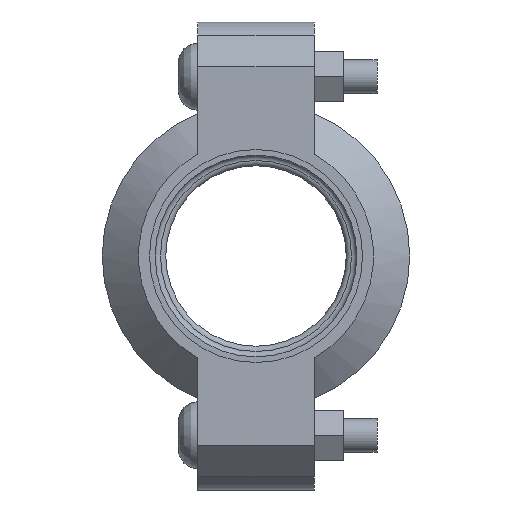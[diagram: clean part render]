
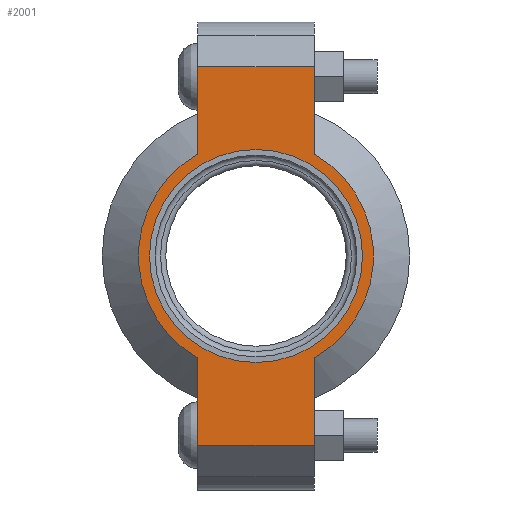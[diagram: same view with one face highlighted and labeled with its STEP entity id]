
A CAD part, left-side view. The second image highlights one B-rep face of the part: STEP entity #2001.
In plain terms, the highlighted planar face has unit normal (-1, 0, 0) as drawn and (0, 0, 1) by its records, which use the part's own axes.
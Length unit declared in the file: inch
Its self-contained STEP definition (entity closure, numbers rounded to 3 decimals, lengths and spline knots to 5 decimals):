
#134=LINE('',#3570,#233);
#142=LINE('',#3606,#241);
#149=LINE('',#3627,#248);
#158=LINE('',#3659,#257);
#159=LINE('',#3663,#258);
#160=LINE('',#3665,#259);
#233=VECTOR('',#2932,0.3937);
#241=VECTOR('',#2948,0.3937);
#248=VECTOR('',#2967,0.3937);
#257=VECTOR('',#2992,0.3937);
#258=VECTOR('',#2997,0.3937);
#259=VECTOR('',#2998,0.3937);
#319=FACE_BOUND('',#589,.T.);
#365=PLANE('',#2366);
#461=FACE_OUTER_BOUND('',#588,.T.);
#588=EDGE_LOOP('',(#1730,#1731,#1732,#1733,#1734,#1735,#1736,#1737));
#589=EDGE_LOOP('',(#1738));
#736=CIRCLE('',#2308,1.1875);
#762=CIRCLE('',#2367,1.31);
#763=CIRCLE('',#2368,1.31);
#887=VERTEX_POINT('',#3386);
#930=VERTEX_POINT('',#3567);
#931=VERTEX_POINT('',#3569);
#942=VERTEX_POINT('',#3601);
#943=VERTEX_POINT('',#3605);
#950=VERTEX_POINT('',#3624);
#951=VERTEX_POINT('',#3626);
#961=VERTEX_POINT('',#3662);
#962=VERTEX_POINT('',#3664);
#1124=EDGE_CURVE('',#887,#887,#736,.T.);
#1185=EDGE_CURVE('',#931,#930,#134,.T.);
#1199=EDGE_CURVE('',#943,#942,#142,.T.);
#1209=EDGE_CURVE('',#951,#950,#149,.T.);
#1224=EDGE_CURVE('',#943,#930,#158,.T.);
#1225=EDGE_CURVE('',#942,#951,#762,.T.);
#1226=EDGE_CURVE('',#961,#950,#159,.T.);
#1227=EDGE_CURVE('',#961,#962,#160,.T.);
#1228=EDGE_CURVE('',#962,#931,#763,.T.);
#1730=ORIENTED_EDGE('',*,*,#1224,.F.);
#1731=ORIENTED_EDGE('',*,*,#1199,.T.);
#1732=ORIENTED_EDGE('',*,*,#1225,.T.);
#1733=ORIENTED_EDGE('',*,*,#1209,.T.);
#1734=ORIENTED_EDGE('',*,*,#1226,.F.);
#1735=ORIENTED_EDGE('',*,*,#1227,.T.);
#1736=ORIENTED_EDGE('',*,*,#1228,.T.);
#1737=ORIENTED_EDGE('',*,*,#1185,.T.);
#1738=ORIENTED_EDGE('',*,*,#1124,.T.);
#2001=ADVANCED_FACE('',(#461,#319),#365,.T.);
#2308=AXIS2_PLACEMENT_3D('',#3388,#2808,#2809);
#2366=AXIS2_PLACEMENT_3D('',#3660,#2993,#2994);
#2367=AXIS2_PLACEMENT_3D('',#3661,#2995,#2996);
#2368=AXIS2_PLACEMENT_3D('',#3666,#2999,#3000);
#2808=DIRECTION('center_axis',(0.,0.,-1.));
#2809=DIRECTION('ref_axis',(1.,0.,0.));
#2932=DIRECTION('',(1.,0.,0.));
#2948=DIRECTION('',(-1.,0.,0.));
#2967=DIRECTION('',(-1.,0.,0.));
#2992=DIRECTION('',(0.,-1.,0.));
#2993=DIRECTION('center_axis',(0.,0.,1.));
#2994=DIRECTION('ref_axis',(-1.,0.,0.));
#2995=DIRECTION('center_axis',(0.,0.,1.));
#2996=DIRECTION('ref_axis',(1.,0.,0.));
#2997=DIRECTION('',(0.,1.,0.));
#2998=DIRECTION('',(1.,0.,0.));
#2999=DIRECTION('center_axis',(0.,0.,1.));
#3000=DIRECTION('ref_axis',(1.,0.,0.));
#3386=CARTESIAN_POINT('',(-1.1875,0.,0.94));
#3388=CARTESIAN_POINT('Origin',(0.,0.,0.94));
#3567=CARTESIAN_POINT('',(2.11,-0.65,0.94));
#3569=CARTESIAN_POINT('',(1.13737,-0.65,0.94));
#3570=CARTESIAN_POINT('',(2.61,-0.65,0.94));
#3601=CARTESIAN_POINT('',(1.13737,0.65,0.94));
#3605=CARTESIAN_POINT('',(2.11,0.65,0.94));
#3606=CARTESIAN_POINT('',(-2.61,0.65,0.94));
#3624=CARTESIAN_POINT('',(-2.11,0.65,0.94));
#3626=CARTESIAN_POINT('',(-1.13737,0.65,0.94));
#3627=CARTESIAN_POINT('',(-2.61,0.65,0.94));
#3659=CARTESIAN_POINT('',(2.11,-0.325,0.94));
#3660=CARTESIAN_POINT('Origin',(0.,0.,
0.94));
#3661=CARTESIAN_POINT('Origin',(0.,0.,0.94));
#3662=CARTESIAN_POINT('',(-2.11,-0.65,0.94));
#3663=CARTESIAN_POINT('',(-2.11,0.325,0.94));
#3664=CARTESIAN_POINT('',(-1.13737,-0.65,0.94));
#3665=CARTESIAN_POINT('',(2.61,-0.65,0.94));
#3666=CARTESIAN_POINT('Origin',(0.,0.,0.94));
